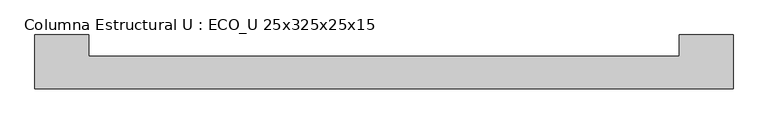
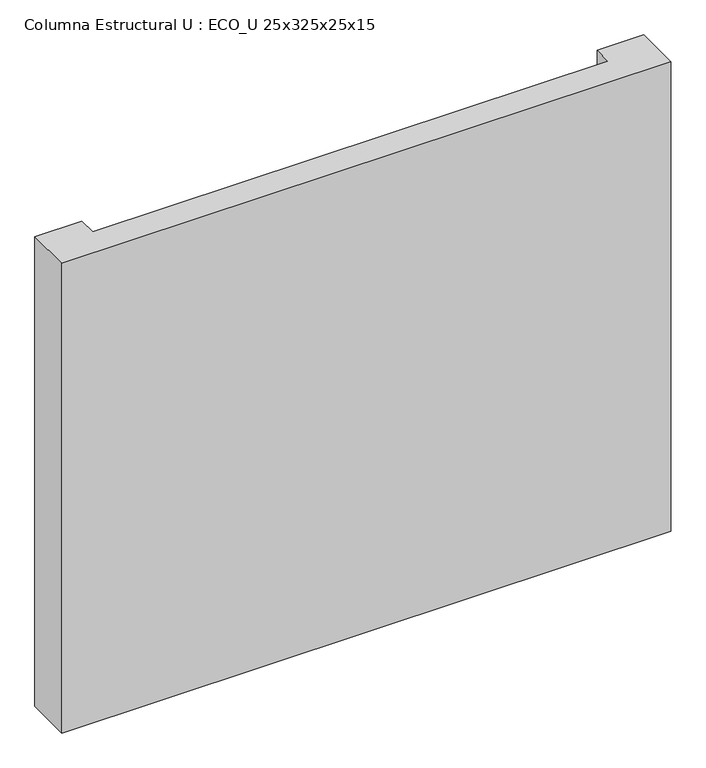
"""IFC4 building model written with IfcOpenShell, lengths in millimetres: column geometry, Columna Estructural U : ECO_U 25x325x25x15."""

from ifc_helpers import new_model, si_unit, frame, origin, place, context, project, spatial, polyline, outline, extrude, source, transform, mapped, element, save


def columna_estructural_u_eco_u_25x325x25x15_2f31ad44(model_context):
    return source(origin(), model_context, "Body", "SweptSolid", [
        extrude(outline(polyline([(1375.0, 75.0), (1375.0, 175.0), (1625.0, 175.0), (1625.0, -75.0), (-1625.0, -75.0), (-1625.0, 175.0), (-1375.0, 175.0), (-1375.0, 75.0), (1375.0, 75.0)])), frame((0.0, 0.0, 8050.0), z_axis=(0.0, 0.0, 1.0), x_axis=(1.0, 0.0, 0.0)), (0.0, 0.0, 1.0), 2650.0),
    ])


if __name__ == "__main__":
    model = new_model("IFC4")
    model_context = context("Model", 3, world=origin())
    ifc_project = project(units=[si_unit("LENGTHUNIT", "METRE", prefix="MILLI")], contexts=[model_context])
    site = spatial("IfcSite", under=ifc_project)
    building = spatial("IfcBuilding", under=site)
    placement = place(None, origin())
    columna_estructural_u_eco_u_25x325x25x15_shape = columna_estructural_u_eco_u_25x325x25x15_2f31ad44(model_context)
    element("IfcColumn", 1, ObjectType="Columna Estructural U : ECO_U 25x325x25x15", at=placement, inside=building, context=model_context, shape_type="MappedRepresentation", body=[
        mapped(columna_estructural_u_eco_u_25x325x25x15_shape, transform((0.0, 0.0, 0.0), x_axis=(1.0, 0.0, 0.0), y_axis=(0.0, 1.0, 0.0), z_axis=(0.0, 0.0, 1.0))),
    ])
    save(model, "model.ifc")
